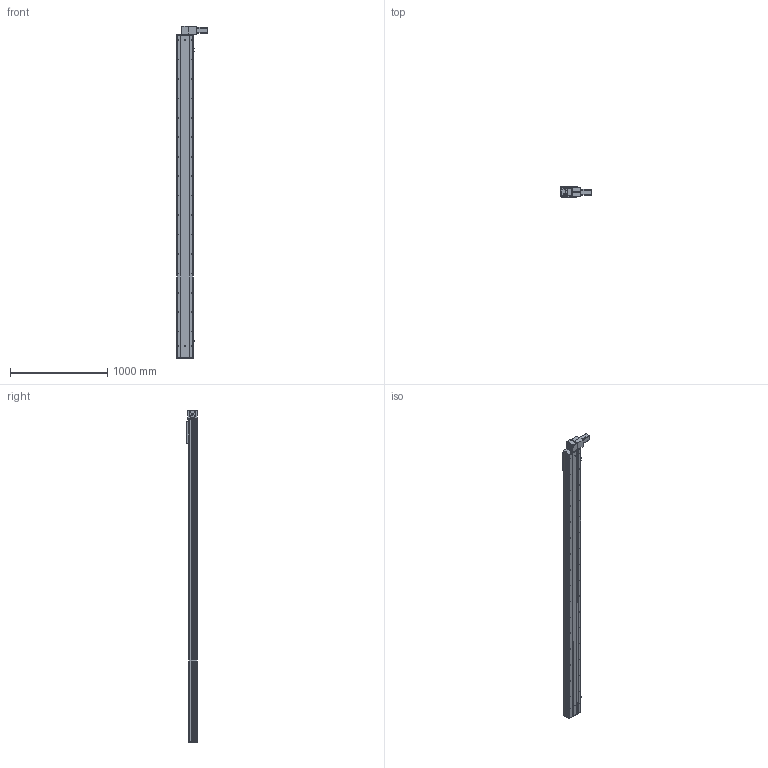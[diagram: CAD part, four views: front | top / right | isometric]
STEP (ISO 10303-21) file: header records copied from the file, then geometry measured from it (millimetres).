
FILE_DESCRIPTION (( 'STEP AP203' ), '1' );
FILE_NAME ('Y170CB-D105-S3000-BD-P400W.STEP', '2020-02-20T09:26:29', ( '微软用户' ), ( '微软中国' ), 'SwSTEP 2.0', 'SolidWorks 2017', '' );
FILE_SCHEMA (( 'CONFIG_CONTROL_DESIGN' ));
Length unit declared in the file: millimetre
Products named in the file (16): 70CB-詩湍--; Y100-135俋离換覜ん--; Y170CB-陔俋离換覜結え---; Y1埴倛裔; 70CB-耜裔啣-; 70B喘謫眊----; 70C--詩湍揤踡え-; B-源倛裔啣; 0B薊粣ん眊-400W--; 70CB--耜裔; san松下电机400不带刹车----; Y170CB-D105-S3000-BD-P400W; 70C-雄赽釱-奻-; 70CB-掛极-; 0C--雄赽釱俋欶-170; --70CB --喘謫眊楊擘啣-
Assembly tree (19 placements, depth 2):
  Y170CB-D105-S3000-BD-P400W
    B-源倛裔啣
    san松下电机400不带刹车----
    70CB-掛极-
    --70CB --喘謫眊楊擘啣-
    70CB-耜裔啣-  x2
    70C--詩湍揤踡え-  x2
    70CB--耜裔
    70C-雄赽釱-奻-
    0C--雄赽釱俋欶-170
    70CB-詩湍--
    Y100-135俋离換覜ん--  x3
    Y170CB-陔俋离換覜結え---
    Y1埴倛裔
    70B喘謫眊----
    0B薊粣ん眊-400W--
Bounding box: 313.5 x 107 x 3416 mm (x, y, z)
Volume: 14701560.8 mm3; surface area: 5183085.6 mm2
Topology: 19 solids, 19 shells, 1000 faces, 2666 edges, 1768 vertices
Faces by surface type: cylinder 554, plane 422, cone 24
Entity records: 31639 total; most frequent: CARTESIAN_POINT 5926, DIRECTION 5151, ORIENTED_EDGE 4814, EDGE_CURVE 2407, AXIS2_PLACEMENT_3D 1921, VERTEX_POINT 1598, VECTOR 1309, LINE 1309
